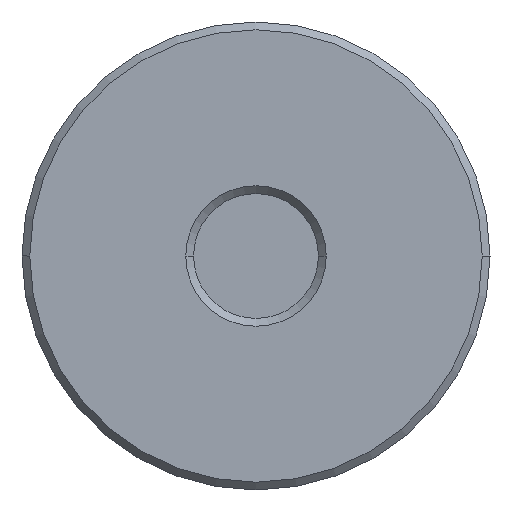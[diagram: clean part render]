
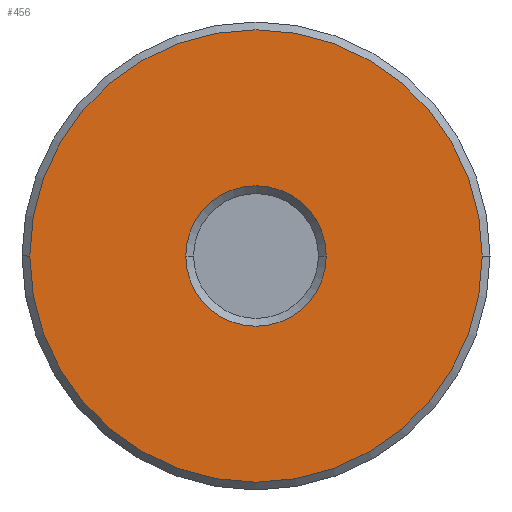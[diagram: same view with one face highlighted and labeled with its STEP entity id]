
A CAD part, left-side view. The second image highlights one B-rep face of the part: STEP entity #456.
In plain terms, the highlighted planar face has unit normal (-1, 0, 0).
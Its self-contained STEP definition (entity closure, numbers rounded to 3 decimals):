
#238=CARTESIAN_POINT('Vertex',(-10.,23.59,0.)) ;
#245=CARTESIAN_POINT('Vertex',(-10.,-5.41,0.)) ;
#248=CARTESIAN_POINT('Axis2P3D Location',(-10.,9.09,0.)) ;
#265=CARTESIAN_POINT('Axis2P3D Location',(-10.,9.09,0.)) ;
#429=CARTESIAN_POINT('Axis2P3D Location',(-10.,0.,0.)) ;
#438=CARTESIAN_POINT('Axis2P3D Location',(-10.,9.09,0.)) ;
#442=CARTESIAN_POINT('Vertex',(-10.,4.59,0.)) ;
#444=CARTESIAN_POINT('Vertex',(-10.,13.59,0.)) ;
#447=CARTESIAN_POINT('Axis2P3D Location',(-10.,9.09,0.)) ;
#249=DIRECTION('Axis2P3D Direction',(-1.,0.,0.)) ;
#266=DIRECTION('Axis2P3D Direction',(-1.,0.,0.)) ;
#430=DIRECTION('Axis2P3D Direction',(-1.,-0.,0.)) ;
#431=DIRECTION('Axis2P3D XDirection',(0.,-1.,-0.)) ;
#439=DIRECTION('Axis2P3D Direction',(-1.,-0.,0.)) ;
#448=DIRECTION('Axis2P3D Direction',(-1.,-0.,0.)) ;
#250=AXIS2_PLACEMENT_3D('Circle Axis2P3D',#248,#249,$) ;
#267=AXIS2_PLACEMENT_3D('Circle Axis2P3D',#265,#266,$) ;
#432=AXIS2_PLACEMENT_3D('Plane Axis2P3D',#429,#430,#431) ;
#440=AXIS2_PLACEMENT_3D('Circle Axis2P3D',#438,#439,$) ;
#449=AXIS2_PLACEMENT_3D('Circle Axis2P3D',#447,#448,$) ;
#435=ORIENTED_EDGE('',*,*,#252,.T.) ;
#436=ORIENTED_EDGE('',*,*,#269,.T.) ;
#453=ORIENTED_EDGE('',*,*,#446,.F.) ;
#454=ORIENTED_EDGE('',*,*,#451,.F.) ;
#455=FACE_BOUND('',#452,.T.) ;
#456=ADVANCED_FACE('\X2\51E04F554F53\X0\.2',(#437,#455),#433,.T.) ;
#251=CIRCLE('generated circle',#250,14.5) ;
#268=CIRCLE('generated circle',#267,14.5) ;
#441=CIRCLE('generated circle',#440,4.5) ;
#450=CIRCLE('generated circle',#449,4.5) ;
#252=EDGE_CURVE('',#239,#246,#251,.T.) ;
#269=EDGE_CURVE('',#246,#239,#268,.T.) ;
#446=EDGE_CURVE('',#443,#445,#441,.T.) ;
#451=EDGE_CURVE('',#445,#443,#450,.T.) ;
#434=EDGE_LOOP('',(#435,#436)) ;
#452=EDGE_LOOP('',(#453,#454)) ;
#437=FACE_OUTER_BOUND('',#434,.T.) ;
#433=PLANE('',#432) ;
#239=VERTEX_POINT('',#238) ;
#246=VERTEX_POINT('',#245) ;
#443=VERTEX_POINT('',#442) ;
#445=VERTEX_POINT('',#444) ;
